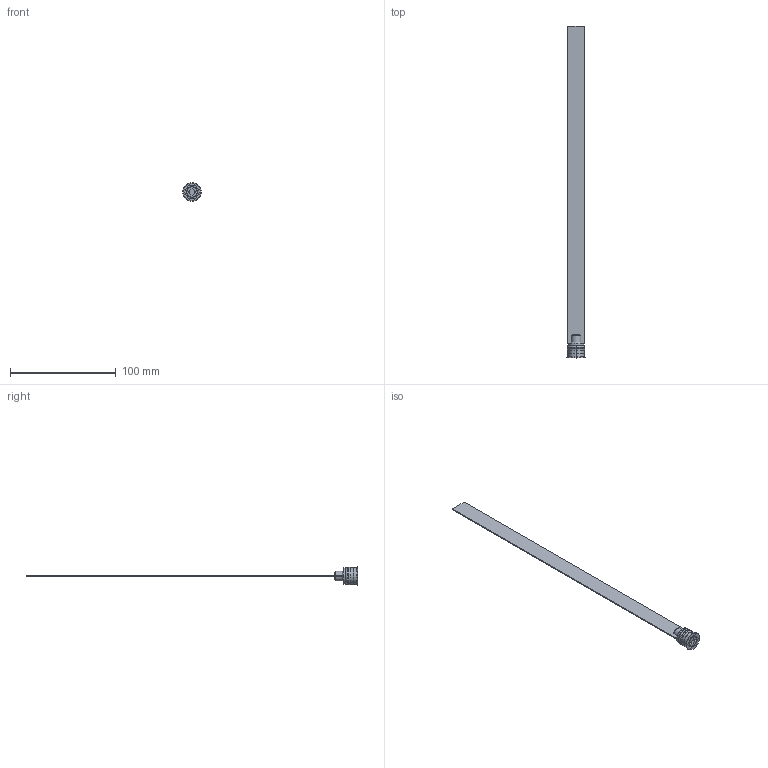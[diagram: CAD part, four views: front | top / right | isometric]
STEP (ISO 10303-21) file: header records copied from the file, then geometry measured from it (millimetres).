
FILE_DESCRIPTION (( 'STEP AP203' ), '1' );
FILE_NAME ('RL-16Fx300.STEP', '2015-12-02T14:31:04', ( 'Balzi' ), ( '' ), 'SwSTEP 2.0', 'SolidWorks 2015', '' );
FILE_SCHEMA (( 'CONFIG_CONTROL_DESIGN' ));
Length unit declared in the file: millimetre
Products named in the file (1): RL-16Fx300
Bounding box: 17.5 x 314 x 17.5 mm (x, y, z)
Volume: 7668.3 mm3; surface area: 11857.6 mm2
Topology: 1 solids, 1 shells, 75 faces, 177 edges, 109 vertices
Faces by surface type: plane 31, cone 19, cylinder 17, torus 8
Entity records: 2245 total; most frequent: CARTESIAN_POINT 412, DIRECTION 386, ORIENTED_EDGE 354, EDGE_CURVE 177, AXIS2_PLACEMENT_3D 147, VERTEX_POINT 109, LINE 92, VECTOR 92
